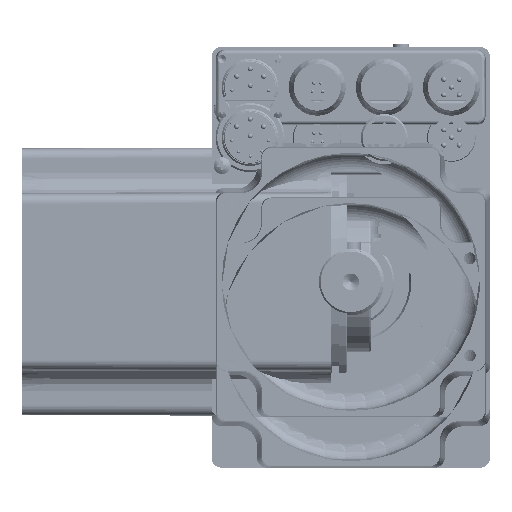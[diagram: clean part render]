
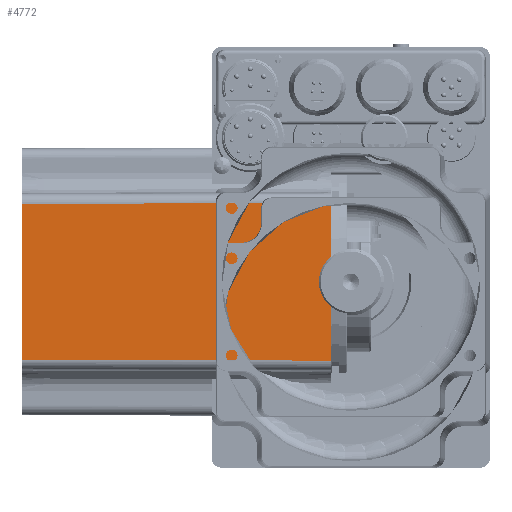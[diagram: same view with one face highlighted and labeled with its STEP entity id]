
A CAD part, front view. The second image highlights one B-rep face of the part: STEP entity #4772.
In plain terms, the highlighted planar face has unit normal (-0.003, -1, 0).
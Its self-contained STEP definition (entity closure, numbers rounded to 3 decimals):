
#4772 = ADVANCED_FACE( '', ( #10000 ), #10001, .T. );
#10000 = FACE_OUTER_BOUND( '', #25417, .T. );
#10001 = PLANE( '', #25418 );
#25417 = EDGE_LOOP( '', ( #36356, #36357, #36358, #36359 ) );
#25418 = AXIS2_PLACEMENT_3D( '', #36360, #36361, #36362 );
#36356 = ORIENTED_EDGE( '', *, *, #43041, .T. );
#36357 = ORIENTED_EDGE( '', *, *, #43417, .T. );
#36358 = ORIENTED_EDGE( '', *, *, #41944, .T. );
#36359 = ORIENTED_EDGE( '', *, *, #43345, .T. );
#36360 = CARTESIAN_POINT( '', ( -5., -40., 0. ) );
#36361 = DIRECTION( '', ( -0.003, -1., 0. ) );
#36362 = DIRECTION( '', ( 1., -0.003, 0. ) );
#41944 = EDGE_CURVE( '', #48943, #48944, #48945, .T. );
#43041 = EDGE_CURVE( '', #50417, #50415, #50418, .T. );
#43345 = EDGE_CURVE( '', #48944, #50417, #50779, .T. );
#43417 = EDGE_CURVE( '', #50415, #48943, #50863, .T. );
#48943 = VERTEX_POINT( '', #68272 );
#48944 = VERTEX_POINT( '', #68273 );
#48945 = LINE( '', #68274, #68275 );
#50415 = VERTEX_POINT( '', #70826 );
#50417 = VERTEX_POINT( '', #70828 );
#50418 = LINE( '', #70829, #70830 );
#50779 = LINE( '', #71393, #71394 );
#50863 = LINE( '', #71549, #71550 );
#68272 = CARTESIAN_POINT( '', ( -6., -39.997, 23.497 ) );
#68273 = CARTESIAN_POINT( '', ( -98., -39.729, 23.229 ) );
#68274 = CARTESIAN_POINT( '', ( -98.991, -39.727, 23.227 ) );
#68275 = VECTOR( '', #78013, 1000. );
#70826 = CARTESIAN_POINT( '', ( -6., -39.997, -23.497 ) );
#70828 = CARTESIAN_POINT( '', ( -98., -39.729, -23.229 ) );
#70829 = CARTESIAN_POINT( '', ( -4.991, -40., -23.5 ) );
#70830 = VECTOR( '', #79373, 1000. );
#71393 = CARTESIAN_POINT( '', ( -98., -39.729, 0. ) );
#71394 = VECTOR( '', #79654, 1000. );
#71549 = CARTESIAN_POINT( '', ( -6., -39.997, 0. ) );
#71550 = VECTOR( '', #79696, 1000. );
#78013 = DIRECTION( '', ( -1., 0.003, -0.003 ) );
#79373 = DIRECTION( '', ( 1., -0.003, -0.003 ) );
#79654 = DIRECTION( '', ( 0., 0., -1. ) );
#79696 = DIRECTION( '', ( 0., 0., 1. ) );
